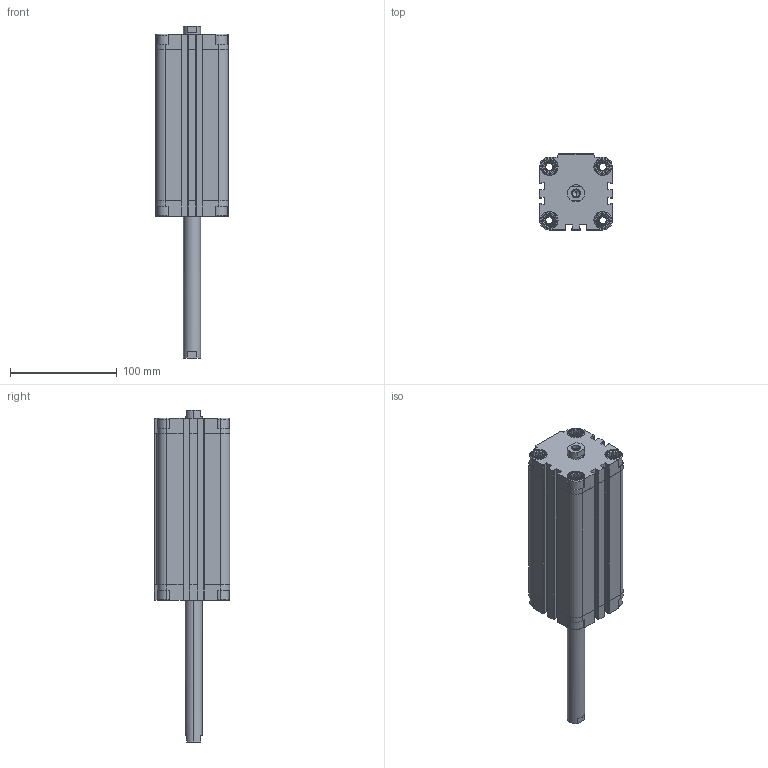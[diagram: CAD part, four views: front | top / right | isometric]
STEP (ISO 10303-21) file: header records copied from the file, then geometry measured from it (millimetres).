
FILE_DESCRIPTION (( 'STEP AP203' ), '1' );
FILE_NAME ('CDVU50-125F-P.STEP', '2020-07-24T18:37:03', ( '' ), ( '' ), 'SwSTEP 2.0', 'SolidWorks 2019', '' );
FILE_SCHEMA (( 'CONFIG_CONTROL_DESIGN' ));
Length unit declared in the file: millimetre
Products named in the file (1): CDVU50-125F-P
Bounding box: 68 x 71 x 310.5 mm (x, y, z)
Volume: 510335.9 mm3; surface area: 138043.4 mm2
Topology: 2 solids, 2 shells, 722 faces, 1928 edges, 1244 vertices
Faces by surface type: plane 422, cylinder 236, cone 48, torus 16
Entity records: 22639 total; most frequent: CARTESIAN_POINT 4463, ORIENTED_EDGE 3840, DIRECTION 3726, EDGE_CURVE 1920, AXIS2_PLACEMENT_3D 1275, VERTEX_POINT 1244, LINE 1176, VECTOR 1176
